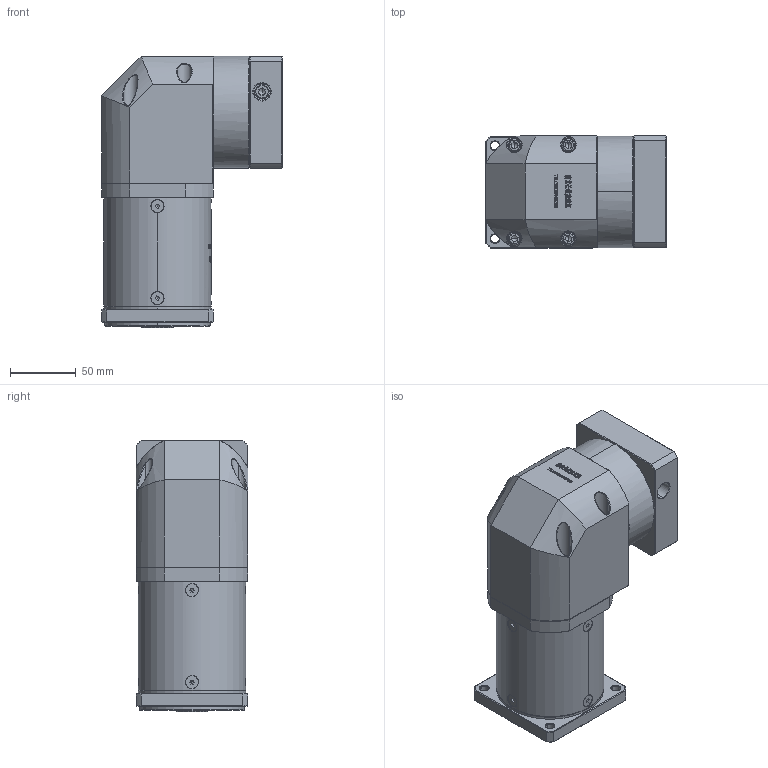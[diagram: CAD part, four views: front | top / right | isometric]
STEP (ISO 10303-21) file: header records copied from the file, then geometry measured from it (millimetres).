
FILE_DESCRIPTION (( 'STEP AP214' ), '1' );
FILE_NAME ('ZF80-K15-L3-16-80-100-M6.step', '2022-05-08T12:04:46', ( '' ), ( 'Microsoft' ), 'SwSTEP 2.0', 'SolidWorks 2016', '' );
FILE_SCHEMA (( 'AUTOMOTIVE_DESIGN' ));
Length unit declared in the file: millimetre
Products named in the file (1): ZF80-K15-L3-16-80-100-M6
Bounding box: 137.6 x 85 x 206.5 mm (x, y, z)
Volume: 1442741.7 mm3; surface area: 144243 mm2
Topology: 13 solids, 13 shells, 3010 faces, 7911 edges, 5050 vertices
Faces by surface type: plane 1610, bspline 614, cylinder 414, cone 358, torus 14
Entity records: 158807 total; most frequent: CARTESIAN_POINT 56951, ORIENTED_EDGE 15734, DIRECTION 11875, EDGE_CURVE 7867, VERTEX_POINT 5050, VECTOR 4925, LINE 4925, AXIS2_PLACEMENT_3D 3475
